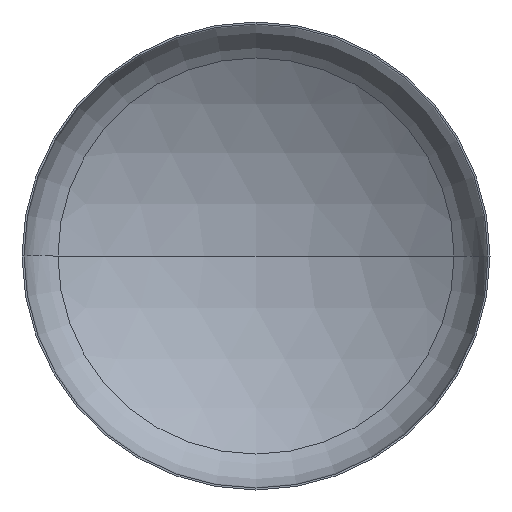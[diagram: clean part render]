
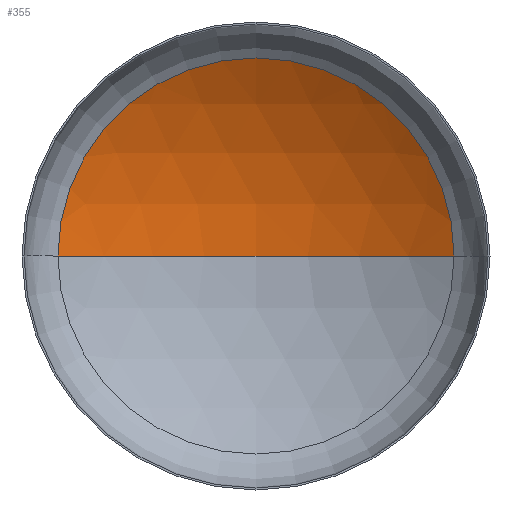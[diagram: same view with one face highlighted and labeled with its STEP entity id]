
A CAD part, front view. The second image highlights one B-rep face of the part: STEP entity #355.
In plain terms, the highlighted spherical face has radius 4800 mm.
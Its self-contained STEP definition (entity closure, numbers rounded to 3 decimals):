
#9 = DIRECTION ( 'NONE',  ( -1., 0., 0. ) ) ;
#12 = ORIENTED_EDGE ( 'NONE', *, *, #242, .T. ) ;
#15 = DIRECTION ( 'NONE',  ( 0., 0., -1. ) ) ;
#24 = CARTESIAN_POINT ( 'NONE',  ( 0., -3213.332, 0. ) ) ;
#26 = AXIS2_PLACEMENT_3D ( 'NONE', #318, #141, #157 ) ;
#41 = VERTEX_POINT ( 'NONE', #232 ) ;
#49 = ORIENTED_EDGE ( 'NONE', *, *, #243, .F. ) ;
#79 = VERTEX_POINT ( 'NONE', #214 ) ;
#84 = EDGE_LOOP ( 'NONE', ( #49, #12, #245 ) ) ;
#113 = VERTEX_POINT ( 'NONE', #211 ) ;
#140 = AXIS2_PLACEMENT_3D ( 'NONE', #24, #15, #9 ) ;
#141 = DIRECTION ( 'NONE',  ( 0., 0., -1. ) ) ;
#147 = AXIS2_PLACEMENT_3D ( 'NONE', #179, #209, #380 ) ;
#155 = AXIS2_PLACEMENT_3D ( 'NONE', #177, #181, #183 ) ;
#157 = DIRECTION ( 'NONE',  ( -1., 0., 0. ) ) ;
#177 = CARTESIAN_POINT ( 'NONE',  ( 0., 859.957, 0. ) ) ;
#179 = CARTESIAN_POINT ( 'NONE',  ( 0., -3213.332, 0. ) ) ;
#181 = DIRECTION ( 'NONE',  ( 0., -1., 0. ) ) ;
#183 = DIRECTION ( 'NONE',  ( 1., 0., 0. ) ) ;
#209 = DIRECTION ( 'NONE',  ( 0., 0., 1. ) ) ;
#211 = CARTESIAN_POINT ( 'NONE',  ( 0., 1586.668, 0. ) ) ;
#214 = CARTESIAN_POINT ( 'NONE',  ( -2539.355, 859.957, 0. ) ) ;
#232 = CARTESIAN_POINT ( 'NONE',  ( 2539.355, 859.957, 0. ) ) ;
#238 = EDGE_CURVE ( 'NONE', #41, #79, #280, .T. ) ;
#240 = FACE_OUTER_BOUND ( 'NONE', #84, .T. ) ;
#242 = EDGE_CURVE ( 'NONE', #113, #41, #270, .T. ) ;
#243 = EDGE_CURVE ( 'NONE', #113, #79, #392, .T. ) ;
#245 = ORIENTED_EDGE ( 'NONE', *, *, #238, .T. ) ;
#270 = CIRCLE ( 'NONE', #140, 4800. ) ;
#280 = CIRCLE ( 'NONE', #155, 2539.355 ) ;
#318 = CARTESIAN_POINT ( 'NONE',  ( 0., -3213.332, 0. ) ) ;
#355 = ADVANCED_FACE ( 'NONE', ( #240 ), #367, .F. ) ;
#367 = SPHERICAL_SURFACE ( 'NONE', #26, 4800. ) ;
#380 = DIRECTION ( 'NONE',  ( 1., 0., 0. ) ) ;
#392 = CIRCLE ( 'NONE', #147, 4800. ) ;
